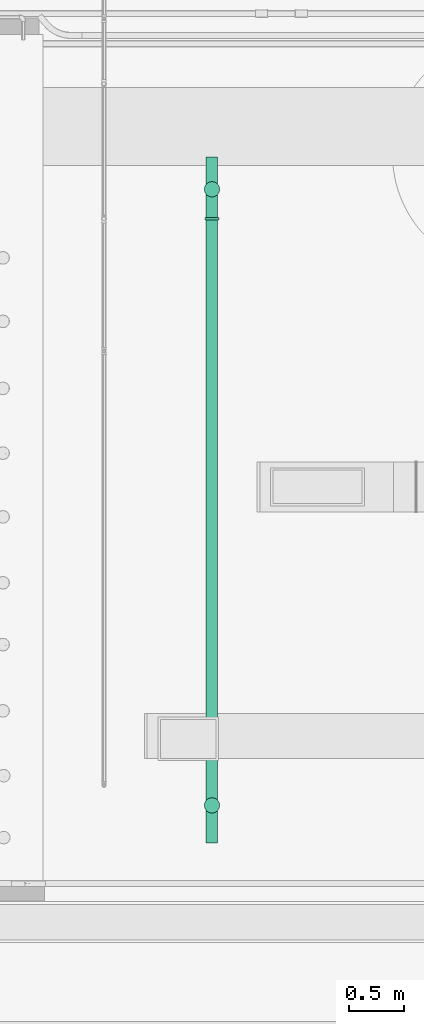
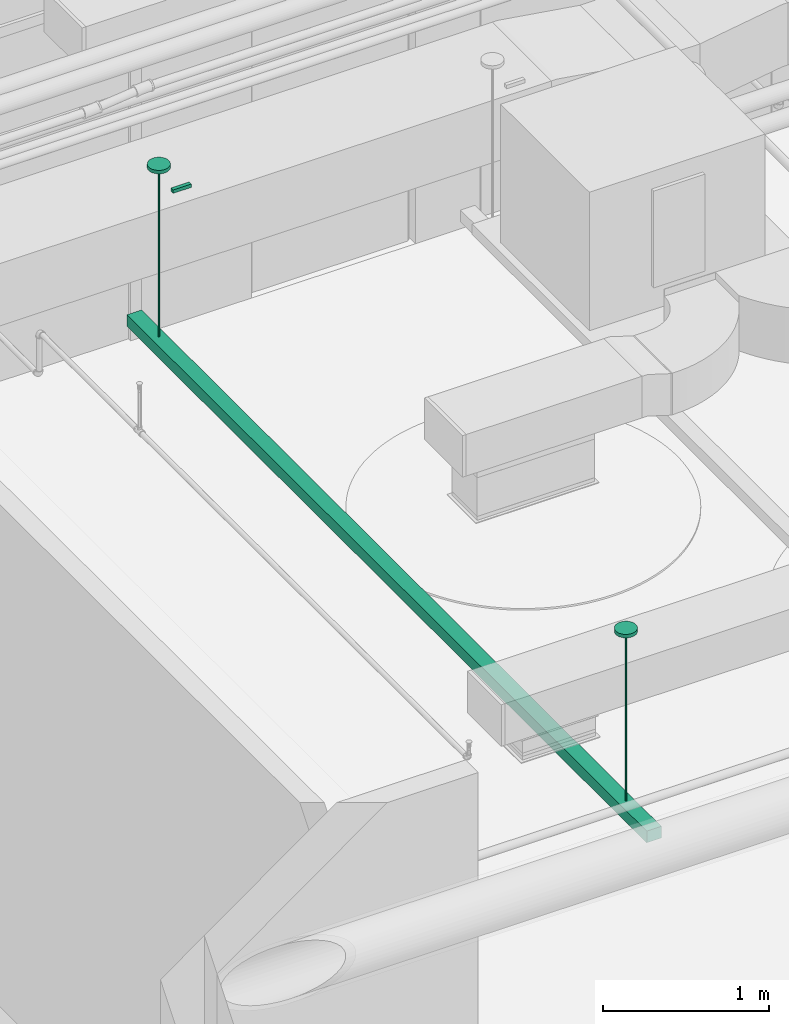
# One storey, part 24 of 108: 1 light fixture.
"""IFC4 building model written with IfcOpenShell, lengths in feet."""

from ifc_helpers import new_model, entity, si_unit, converted_unit, derived_unit, direction, frame, origin, place, context, subcontext, project, spatial, source, transform, mapped, material, type_object, type_shapes, element, save


model = new_model("IFC4")

# Units and contexts
model_context = context("Model", 3, precision=0.0001, world=origin(), true_north=direction((6.12303176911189e-17, 1.0)))
body_context = subcontext(model_context, "Body", "Model", "MODEL_VIEW")
ifc_project = project(units=[converted_unit("LENGTHUNIT", "FOOT", entity("IfcRatioMeasure", 0.3048), si_unit("LENGTHUNIT", "METRE"), dimensions=[1, 0, 0, 0, 0, 0, 0]), converted_unit("AREAUNIT", "SQUARE FOOT", entity("IfcRatioMeasure", 0.09290304), si_unit("AREAUNIT", "SQUARE_METRE"), dimensions=[2, 0, 0, 0, 0, 0, 0]), converted_unit("VOLUMEUNIT", "CUBIC FOOT", entity("IfcRatioMeasure", 0.028316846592), si_unit("VOLUMEUNIT", "CUBIC_METRE"), dimensions=[3, 0, 0, 0, 0, 0, 0]), converted_unit("PLANEANGLEUNIT", "DEGREE", entity("IfcRatioMeasure", 0.0174532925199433), si_unit("PLANEANGLEUNIT", "RADIAN"), dimensions=[0, 0, 0, 0, 0, 0, 0]), si_unit("MASSUNIT", "GRAM", prefix="KILO"), derived_unit("MASSDENSITYUNIT", [(si_unit("MASSUNIT", "GRAM", prefix="KILO"), 1), (si_unit("LENGTHUNIT", "METRE"), -3)]), si_unit("TIMEUNIT", "SECOND"), si_unit("FREQUENCYUNIT", "HERTZ"), si_unit("THERMODYNAMICTEMPERATUREUNIT", "DEGREE_CELSIUS"), derived_unit("THERMALTRANSMITTANCEUNIT", [(si_unit("MASSUNIT", "GRAM", prefix="KILO"), 1), (si_unit("THERMODYNAMICTEMPERATUREUNIT", "KELVIN"), -1), (si_unit("TIMEUNIT", "SECOND"), -3)]), derived_unit("VOLUMETRICFLOWRATEUNIT", [(si_unit("LENGTHUNIT", "METRE"), 3), (si_unit("TIMEUNIT", "SECOND"), -1)]), si_unit("ELECTRICCURRENTUNIT", "AMPERE"), si_unit("ELECTRICVOLTAGEUNIT", "VOLT"), si_unit("POWERUNIT", "WATT"), si_unit("FORCEUNIT", "NEWTON"), si_unit("ILLUMINANCEUNIT", "LUX"), si_unit("LUMINOUSFLUXUNIT", "LUMEN"), si_unit("LUMINOUSINTENSITYUNIT", "CANDELA"), derived_unit("USERDEFINED", [(si_unit("MASSUNIT", "GRAM", prefix="KILO"), -1), (si_unit("LENGTHUNIT", "METRE"), -2), (si_unit("TIMEUNIT", "SECOND"), 3), (si_unit("LUMINOUSFLUXUNIT", "LUMEN"), 1)]), derived_unit("LINEARVELOCITYUNIT", [(si_unit("LENGTHUNIT", "METRE"), 1), (si_unit("TIMEUNIT", "SECOND"), -1)]), si_unit("PRESSUREUNIT", "PASCAL"), derived_unit("USERDEFINED", [(si_unit("LENGTHUNIT", "METRE"), -2), (si_unit("MASSUNIT", "GRAM", prefix="KILO"), 1), (si_unit("TIMEUNIT", "SECOND"), -2)])], contexts=[model_context])

# Site, building, storey
site_placement = place(None, origin())
site = spatial("IfcSite", under=ifc_project, at=site_placement, Name="Default", CompositionType="ELEMENT")
building_placement = place(site_placement, origin())
building = spatial("IfcBuilding", under=site, at=building_placement, CompositionType="ELEMENT")
storey_placement = place(building_placement, frame((0.0, 0.0, 168.0)))
storey = spatial("IfcBuildingStorey", under=building, at=storey_placement, Name="Level 15", CompositionType="ELEMENT", Elevation=168.0)

# Light fixture
ifc_material = material(Name="Lighting Proxy", Category="System")
light_fixture_type = type_object("IfcLightFixtureType", Name="20' 8\"", PredefinedType="NOTDEFINED", material=ifc_material)
cartesian_point_1 = entity("IfcCartesianPoint", [0.891666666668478, 0.23440049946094, 4.43794169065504])
vertex_point_1 = entity("IfcVertexPoint", cartesian_point_1)
cartesian_point_2 = entity("IfcCartesianPoint", [1.35000000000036, 0.23440049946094, 4.43794169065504])
vertex_point_2 = entity("IfcVertexPoint", cartesian_point_2)
cartesian_point_3 = entity("IfcCartesianPoint", [1.12083333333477, 0.23440049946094, 4.43794169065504])
ifc_direction_1 = entity("IfcDirection", [0.0, 0.0, -1.0])
ifc_direction_2 = entity("IfcDirection", [1.0, 0.0, 0.0])
edge_curve_1 = entity("IfcEdgeCurve", vertex_point_1, vertex_point_2, entity("IfcTrimmedCurve", entity("IfcCircle", entity("IfcAxis2Placement3D", cartesian_point_3, ifc_direction_1, ifc_direction_2), 0.22916666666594), [cartesian_point_1], [cartesian_point_2], True, "CARTESIAN"), True)
cartesian_point_4 = entity("IfcCartesianPoint", [1.35000000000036, 0.234400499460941, 4.35387752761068])
vertex_point_3 = entity("IfcVertexPoint", cartesian_point_4)
edge_curve_2 = entity("IfcEdgeCurve", vertex_point_2, vertex_point_3, entity("IfcTrimmedCurve", entity("IfcLine", cartesian_point_2, entity("IfcVector", ifc_direction_1, 1.0)), [cartesian_point_2], [cartesian_point_4], True, "CARTESIAN"), True)
cartesian_point_5 = entity("IfcCartesianPoint", [0.891666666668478, 0.234400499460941, 4.35387752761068])
vertex_point_4 = entity("IfcVertexPoint", cartesian_point_5)
cartesian_point_6 = entity("IfcCartesianPoint", [1.12083333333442, 0.234400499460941, 4.35387752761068])
ifc_direction_3 = entity("IfcDirection", [0.0, 0.0, 1.0])
edge_curve_3 = entity("IfcEdgeCurve", vertex_point_3, vertex_point_4, entity("IfcTrimmedCurve", entity("IfcCircle", entity("IfcAxis2Placement3D", cartesian_point_6, ifc_direction_3, ifc_direction_2), 0.22916666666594), [cartesian_point_4], [cartesian_point_5], True, "CARTESIAN"), True)
edge_curve_4 = entity("IfcEdgeCurve", vertex_point_4, vertex_point_1, entity("IfcTrimmedCurve", entity("IfcLine", cartesian_point_5, entity("IfcVector", ifc_direction_3, 1.0)), [cartesian_point_5], [cartesian_point_1], True, "CARTESIAN"), True)
cartesian_point_7 = entity("IfcCartesianPoint", [1.12083333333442, 0.234400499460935, 4.75044169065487])
edge_curve_5 = entity("IfcEdgeCurve", vertex_point_2, vertex_point_1, entity("IfcTrimmedCurve", entity("IfcCircle", entity("IfcAxis2Placement3D", cartesian_point_3, ifc_direction_1, ifc_direction_2), 0.22916666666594), [cartesian_point_2], [cartesian_point_1], True, "CARTESIAN"), True)
edge_curve_6 = entity("IfcEdgeCurve", vertex_point_4, vertex_point_3, entity("IfcTrimmedCurve", entity("IfcCircle", entity("IfcAxis2Placement3D", cartesian_point_6, ifc_direction_3, ifc_direction_2), 0.22916666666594), [cartesian_point_5], [cartesian_point_4], True, "CARTESIAN"), True)
cartesian_point_8 = entity("IfcCartesianPoint", [1.14166666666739, 0.234400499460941, 4.35387752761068])
vertex_point_5 = entity("IfcVertexPoint", cartesian_point_8)
ifc_direction_4 = entity("IfcDirection", [-1.0, 0.0, 0.0])
edge_curve_7 = entity("IfcEdgeCurve", vertex_point_3, vertex_point_5, entity("IfcTrimmedCurve", entity("IfcLine", cartesian_point_4, entity("IfcVector", ifc_direction_4, 1.0)), [cartesian_point_4], [cartesian_point_8], True, "CARTESIAN"), True)
cartesian_point_9 = entity("IfcCartesianPoint", [1.10000000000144, 0.234400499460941, 4.35387752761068])
vertex_point_6 = entity("IfcVertexPoint", cartesian_point_9)
edge_curve_8 = entity("IfcEdgeCurve", vertex_point_5, vertex_point_6, entity("IfcTrimmedCurve", entity("IfcCircle", entity("IfcAxis2Placement3D", cartesian_point_6, ifc_direction_3, ifc_direction_2), 0.0208333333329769), [cartesian_point_8], [cartesian_point_9], True, "CARTESIAN"), True)
edge_curve_9 = entity("IfcEdgeCurve", vertex_point_6, vertex_point_4, entity("IfcTrimmedCurve", entity("IfcLine", cartesian_point_9, entity("IfcVector", ifc_direction_4, 1.0)), [cartesian_point_9], [cartesian_point_5], True, "CARTESIAN"), True)
edge_curve_10 = entity("IfcEdgeCurve", vertex_point_6, vertex_point_5, entity("IfcTrimmedCurve", entity("IfcCircle", entity("IfcAxis2Placement3D", cartesian_point_6, ifc_direction_3, ifc_direction_2), 0.0208333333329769), [cartesian_point_9], [cartesian_point_8], True, "CARTESIAN"), True)
cartesian_point_10 = entity("IfcCartesianPoint", [1.14166666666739, 0.234400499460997, 0.281250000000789])
vertex_point_7 = entity("IfcVertexPoint", cartesian_point_10)
edge_curve_11 = entity("IfcEdgeCurve", vertex_point_5, vertex_point_7, entity("IfcTrimmedCurve", entity("IfcLine", cartesian_point_8, entity("IfcVector", ifc_direction_1, 1.0)), [cartesian_point_8], [cartesian_point_10], True, "CARTESIAN"), True)
cartesian_point_11 = entity("IfcCartesianPoint", [1.10000000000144, 0.234400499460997, 0.281250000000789])
vertex_point_8 = entity("IfcVertexPoint", cartesian_point_11)
cartesian_point_12 = entity("IfcCartesianPoint", [1.12083333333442, 0.234400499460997, 0.281250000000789])
edge_curve_12 = entity("IfcEdgeCurve", vertex_point_7, vertex_point_8, entity("IfcTrimmedCurve", entity("IfcCircle", entity("IfcAxis2Placement3D", cartesian_point_12, ifc_direction_3, ifc_direction_2), 0.0208333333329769), [cartesian_point_10], [cartesian_point_11], True, "CARTESIAN"), True)
edge_curve_13 = entity("IfcEdgeCurve", vertex_point_8, vertex_point_6, entity("IfcTrimmedCurve", entity("IfcLine", cartesian_point_11, entity("IfcVector", ifc_direction_3, 1.0)), [cartesian_point_11], [cartesian_point_9], True, "CARTESIAN"), True)
edge_curve_14 = entity("IfcEdgeCurve", vertex_point_8, vertex_point_7, entity("IfcTrimmedCurve", entity("IfcCircle", entity("IfcAxis2Placement3D", cartesian_point_12, ifc_direction_3, ifc_direction_2), 0.0208333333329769), [cartesian_point_11], [cartesian_point_10], True, "CARTESIAN"), True)
vertex_point_9 = entity("IfcVertexPoint", cartesian_point_12)
edge_curve_15 = entity("IfcEdgeCurve", vertex_point_7, vertex_point_9, entity("IfcTrimmedCurve", entity("IfcLine", cartesian_point_10, entity("IfcVector", ifc_direction_4, 1.0)), [cartesian_point_10], [cartesian_point_12], True, "CARTESIAN"), True)
edge_curve_16 = entity("IfcEdgeCurve", vertex_point_9, vertex_point_8, entity("IfcTrimmedCurve", entity("IfcLine", cartesian_point_12, entity("IfcVector", ifc_direction_4, 1.0)), [cartesian_point_12], [cartesian_point_11], True, "CARTESIAN"), True)
vertex_point_10 = entity("IfcVertexPoint", cartesian_point_3)
edge_curve_17 = entity("IfcEdgeCurve", vertex_point_10, vertex_point_2, entity("IfcTrimmedCurve", entity("IfcLine", cartesian_point_3, entity("IfcVector", ifc_direction_2, 1.0)), [cartesian_point_3], [cartesian_point_2], True, "CARTESIAN"), True)
edge_curve_18 = entity("IfcEdgeCurve", vertex_point_1, vertex_point_10, entity("IfcTrimmedCurve", entity("IfcLine", cartesian_point_1, entity("IfcVector", ifc_direction_2, 1.0)), [cartesian_point_1], [cartesian_point_3], True, "CARTESIAN"), True)
cartesian_point_13 = entity("IfcCartesianPoint", [19.7749999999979, 0.23440049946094, 4.43794169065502])
vertex_point_11 = entity("IfcVertexPoint", cartesian_point_13)
cartesian_point_14 = entity("IfcCartesianPoint", [19.3166666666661, 0.23440049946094, 4.43794169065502])
vertex_point_12 = entity("IfcVertexPoint", cartesian_point_14)
cartesian_point_15 = entity("IfcCartesianPoint", [19.5458333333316, 0.23440049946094, 4.43794169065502])
ifc_direction_5 = entity("IfcDirection", [0.0, 0.0, 1.0])
ifc_direction_6 = entity("IfcDirection", [-1.0, 0.0, 0.0])
edge_curve_19 = entity("IfcEdgeCurve", vertex_point_11, vertex_point_12, entity("IfcTrimmedCurve", entity("IfcCircle", entity("IfcAxis2Placement3D", cartesian_point_15, ifc_direction_5, ifc_direction_6), 0.229166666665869), [cartesian_point_13], [cartesian_point_14], True, "CARTESIAN"), True)
vertex_point_13 = entity("IfcVertexPoint", cartesian_point_15)
ifc_direction_7 = entity("IfcDirection", [1.0, 0.0, 0.0])
edge_curve_20 = entity("IfcEdgeCurve", vertex_point_12, vertex_point_13, entity("IfcTrimmedCurve", entity("IfcLine", cartesian_point_14, entity("IfcVector", ifc_direction_7, 1.0)), [cartesian_point_14], [cartesian_point_15], True, "CARTESIAN"), True)
edge_curve_21 = entity("IfcEdgeCurve", vertex_point_13, vertex_point_11, entity("IfcTrimmedCurve", entity("IfcLine", cartesian_point_15, entity("IfcVector", ifc_direction_7, 1.0)), [cartesian_point_15], [cartesian_point_13], True, "CARTESIAN"), True)
edge_curve_22 = entity("IfcEdgeCurve", vertex_point_12, vertex_point_11, entity("IfcTrimmedCurve", entity("IfcCircle", entity("IfcAxis2Placement3D", cartesian_point_15, ifc_direction_5, ifc_direction_6), 0.229166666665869), [cartesian_point_14], [cartesian_point_13], True, "CARTESIAN"), True)
cartesian_point_16 = entity("IfcCartesianPoint", [19.7749999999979, 0.234400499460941, 4.35387752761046])
vertex_point_14 = entity("IfcVertexPoint", cartesian_point_16)
cartesian_point_17 = entity("IfcCartesianPoint", [19.3166666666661, 0.234400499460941, 4.35387752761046])
vertex_point_15 = entity("IfcVertexPoint", cartesian_point_17)
cartesian_point_18 = entity("IfcCartesianPoint", [19.545833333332, 0.234400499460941, 4.35387752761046])
edge_curve_23 = entity("IfcEdgeCurve", vertex_point_14, vertex_point_15, entity("IfcTrimmedCurve", entity("IfcCircle", entity("IfcAxis2Placement3D", cartesian_point_18, ifc_direction_5, ifc_direction_6), 0.229166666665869), [cartesian_point_16], [cartesian_point_17], True, "CARTESIAN"), True)
edge_curve_24 = entity("IfcEdgeCurve", vertex_point_15, vertex_point_12, entity("IfcTrimmedCurve", entity("IfcLine", cartesian_point_17, entity("IfcVector", ifc_direction_5, 1.0)), [cartesian_point_17], [cartesian_point_14], True, "CARTESIAN"), True)
ifc_direction_8 = entity("IfcDirection", [0.0, 0.0, -1.0])
edge_curve_25 = entity("IfcEdgeCurve", vertex_point_11, vertex_point_14, entity("IfcTrimmedCurve", entity("IfcLine", cartesian_point_13, entity("IfcVector", ifc_direction_8, 1.0)), [cartesian_point_13], [cartesian_point_16], True, "CARTESIAN"), True)
cartesian_point_19 = entity("IfcCartesianPoint", [19.545833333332, 0.234400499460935, 4.75044169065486])
edge_curve_26 = entity("IfcEdgeCurve", vertex_point_15, vertex_point_14, entity("IfcTrimmedCurve", entity("IfcCircle", entity("IfcAxis2Placement3D", cartesian_point_18, ifc_direction_5, ifc_direction_6), 0.229166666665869), [cartesian_point_17], [cartesian_point_16], True, "CARTESIAN"), True)
cartesian_point_20 = entity("IfcCartesianPoint", [19.5666666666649, 0.234400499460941, 4.35387752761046])
vertex_point_16 = entity("IfcVertexPoint", cartesian_point_20)
cartesian_point_21 = entity("IfcCartesianPoint", [19.5249999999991, 0.234400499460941, 4.35387752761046])
vertex_point_17 = entity("IfcVertexPoint", cartesian_point_21)
edge_curve_27 = entity("IfcEdgeCurve", vertex_point_16, vertex_point_17, entity("IfcTrimmedCurve", entity("IfcCircle", entity("IfcAxis2Placement3D", cartesian_point_18, ifc_direction_5, ifc_direction_6), 0.0208333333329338), [cartesian_point_20], [cartesian_point_21], True, "CARTESIAN"), True)
edge_curve_28 = entity("IfcEdgeCurve", vertex_point_17, vertex_point_15, entity("IfcTrimmedCurve", entity("IfcLine", cartesian_point_21, entity("IfcVector", ifc_direction_6, 1.0)), [cartesian_point_21], [cartesian_point_17], True, "CARTESIAN"), True)
edge_curve_29 = entity("IfcEdgeCurve", vertex_point_14, vertex_point_16, entity("IfcTrimmedCurve", entity("IfcLine", cartesian_point_16, entity("IfcVector", ifc_direction_6, 1.0)), [cartesian_point_16], [cartesian_point_20], True, "CARTESIAN"), True)
edge_curve_30 = entity("IfcEdgeCurve", vertex_point_17, vertex_point_16, entity("IfcTrimmedCurve", entity("IfcCircle", entity("IfcAxis2Placement3D", cartesian_point_18, ifc_direction_5, ifc_direction_6), 0.0208333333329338), [cartesian_point_21], [cartesian_point_20], True, "CARTESIAN"), True)
cartesian_point_22 = entity("IfcCartesianPoint", [19.5666666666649, 0.234400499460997, 0.281250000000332])
vertex_point_18 = entity("IfcVertexPoint", cartesian_point_22)
cartesian_point_23 = entity("IfcCartesianPoint", [19.5249999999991, 0.234400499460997, 0.281250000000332])
vertex_point_19 = entity("IfcVertexPoint", cartesian_point_23)
cartesian_point_24 = entity("IfcCartesianPoint", [19.5458333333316, 0.234400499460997, 0.281250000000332])
edge_curve_31 = entity("IfcEdgeCurve", vertex_point_18, vertex_point_19, entity("IfcTrimmedCurve", entity("IfcCircle", entity("IfcAxis2Placement3D", cartesian_point_24, ifc_direction_5, ifc_direction_6), 0.0208333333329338), [cartesian_point_22], [cartesian_point_23], True, "CARTESIAN"), True)
edge_curve_32 = entity("IfcEdgeCurve", vertex_point_19, vertex_point_17, entity("IfcTrimmedCurve", entity("IfcLine", cartesian_point_23, entity("IfcVector", ifc_direction_5, 1.0)), [cartesian_point_23], [cartesian_point_21], True, "CARTESIAN"), True)
edge_curve_33 = entity("IfcEdgeCurve", vertex_point_16, vertex_point_18, entity("IfcTrimmedCurve", entity("IfcLine", cartesian_point_20, entity("IfcVector", ifc_direction_8, 1.0)), [cartesian_point_20], [cartesian_point_22], True, "CARTESIAN"), True)
edge_curve_34 = entity("IfcEdgeCurve", vertex_point_19, vertex_point_18, entity("IfcTrimmedCurve", entity("IfcCircle", entity("IfcAxis2Placement3D", cartesian_point_24, ifc_direction_5, ifc_direction_6), 0.0208333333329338), [cartesian_point_23], [cartesian_point_22], True, "CARTESIAN"), True)
vertex_point_20 = entity("IfcVertexPoint", cartesian_point_24)
edge_curve_35 = entity("IfcEdgeCurve", vertex_point_20, vertex_point_19, entity("IfcTrimmedCurve", entity("IfcLine", cartesian_point_24, entity("IfcVector", ifc_direction_6, 1.0)), [cartesian_point_24], [cartesian_point_23], True, "CARTESIAN"), True)
edge_curve_36 = entity("IfcEdgeCurve", vertex_point_18, vertex_point_20, entity("IfcTrimmedCurve", entity("IfcLine", cartesian_point_22, entity("IfcVector", ifc_direction_6, 1.0)), [cartesian_point_22], [cartesian_point_24], True, "CARTESIAN"), True)
cartesian_point_25 = entity("IfcCartesianPoint", [18.7083333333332, 0.0260671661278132, 4.43794169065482])
vertex_point_21 = entity("IfcVertexPoint", cartesian_point_25)
cartesian_point_26 = entity("IfcCartesianPoint", [18.7083333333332, 0.44273383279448, 4.43794169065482])
vertex_point_22 = entity("IfcVertexPoint", cartesian_point_26)
ifc_direction_9 = entity("IfcDirection", [0.0, 1.0, 0.0])
edge_curve_37 = entity("IfcEdgeCurve", vertex_point_21, vertex_point_22, entity("IfcTrimmedCurve", entity("IfcLine", cartesian_point_25, entity("IfcVector", ifc_direction_9, 1.0)), [cartesian_point_25], [cartesian_point_26], True, "CARTESIAN"), True)
cartesian_point_27 = entity("IfcCartesianPoint", [18.6249999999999, 0.44273383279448, 4.43794169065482])
vertex_point_23 = entity("IfcVertexPoint", cartesian_point_27)
ifc_direction_10 = entity("IfcDirection", [-1.0, 0.0, 0.0])
edge_curve_38 = entity("IfcEdgeCurve", vertex_point_22, vertex_point_23, entity("IfcTrimmedCurve", entity("IfcLine", cartesian_point_26, entity("IfcVector", ifc_direction_10, 1.0)), [cartesian_point_26], [cartesian_point_27], True, "CARTESIAN"), True)
cartesian_point_28 = entity("IfcCartesianPoint", [18.6249999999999, 0.0260671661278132, 4.43794169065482])
vertex_point_24 = entity("IfcVertexPoint", cartesian_point_28)
ifc_direction_11 = entity("IfcDirection", [0.0, -1.0, 0.0])
edge_curve_39 = entity("IfcEdgeCurve", vertex_point_23, vertex_point_24, entity("IfcTrimmedCurve", entity("IfcLine", cartesian_point_27, entity("IfcVector", ifc_direction_11, 1.0)), [cartesian_point_27], [cartesian_point_28], True, "CARTESIAN"), True)
ifc_direction_12 = entity("IfcDirection", [1.0, 0.0, 0.0])
edge_curve_40 = entity("IfcEdgeCurve", vertex_point_24, vertex_point_21, entity("IfcTrimmedCurve", entity("IfcLine", cartesian_point_28, entity("IfcVector", ifc_direction_12, 1.0)), [cartesian_point_28], [cartesian_point_25], True, "CARTESIAN"), True)
ifc_direction_13 = entity("IfcDirection", [0.0, 0.0, 1.0])
cartesian_point_29 = entity("IfcCartesianPoint", [18.7083333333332, 0.0260671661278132, 4.35460835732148])
vertex_point_25 = entity("IfcVertexPoint", cartesian_point_29)
cartesian_point_30 = entity("IfcCartesianPoint", [18.6249999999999, 0.0260671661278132, 4.35460835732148])
vertex_point_26 = entity("IfcVertexPoint", cartesian_point_30)
edge_curve_41 = entity("IfcEdgeCurve", vertex_point_25, vertex_point_26, entity("IfcTrimmedCurve", entity("IfcLine", cartesian_point_29, entity("IfcVector", ifc_direction_10, 1.0)), [cartesian_point_29], [cartesian_point_30], True, "CARTESIAN"), True)
cartesian_point_31 = entity("IfcCartesianPoint", [18.6249999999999, 0.44273383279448, 4.35460835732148])
vertex_point_27 = entity("IfcVertexPoint", cartesian_point_31)
edge_curve_42 = entity("IfcEdgeCurve", vertex_point_26, vertex_point_27, entity("IfcTrimmedCurve", entity("IfcLine", cartesian_point_30, entity("IfcVector", ifc_direction_9, 1.0)), [cartesian_point_30], [cartesian_point_31], True, "CARTESIAN"), True)
cartesian_point_32 = entity("IfcCartesianPoint", [18.7083333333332, 0.44273383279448, 4.35460835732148])
vertex_point_28 = entity("IfcVertexPoint", cartesian_point_32)
edge_curve_43 = entity("IfcEdgeCurve", vertex_point_27, vertex_point_28, entity("IfcTrimmedCurve", entity("IfcLine", cartesian_point_31, entity("IfcVector", ifc_direction_12, 1.0)), [cartesian_point_31], [cartesian_point_32], True, "CARTESIAN"), True)
edge_curve_44 = entity("IfcEdgeCurve", vertex_point_28, vertex_point_25, entity("IfcTrimmedCurve", entity("IfcLine", cartesian_point_32, entity("IfcVector", ifc_direction_11, 1.0)), [cartesian_point_32], [cartesian_point_29], True, "CARTESIAN"), True)
ifc_direction_14 = entity("IfcDirection", [0.0, 0.0, -1.0])
edge_curve_45 = entity("IfcEdgeCurve", vertex_point_21, vertex_point_25, entity("IfcTrimmedCurve", entity("IfcLine", cartesian_point_25, entity("IfcVector", ifc_direction_14, 1.0)), [cartesian_point_25], [cartesian_point_29], True, "CARTESIAN"), True)
edge_curve_46 = entity("IfcEdgeCurve", vertex_point_28, vertex_point_22, entity("IfcTrimmedCurve", entity("IfcLine", cartesian_point_26, entity("IfcVector", ifc_direction_13, 1.0)), [cartesian_point_32], [cartesian_point_26], True, "CARTESIAN"), True)
edge_curve_47 = entity("IfcEdgeCurve", vertex_point_27, vertex_point_23, entity("IfcTrimmedCurve", entity("IfcLine", cartesian_point_27, entity("IfcVector", ifc_direction_13, 1.0)), [cartesian_point_31], [cartesian_point_27], True, "CARTESIAN"), True)
edge_curve_48 = entity("IfcEdgeCurve", vertex_point_26, vertex_point_24, entity("IfcTrimmedCurve", entity("IfcLine", cartesian_point_28, entity("IfcVector", ifc_direction_13, 1.0)), [cartesian_point_30], [cartesian_point_28], True, "CARTESIAN"), True)
cartesian_point_33 = entity("IfcCartesianPoint", [20.507260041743, 0.40656789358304, 0.28125000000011])
vertex_point_29 = entity("IfcVertexPoint", cartesian_point_33)
cartesian_point_34 = entity("IfcCartesianPoint", [0.0, 0.40656789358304, 0.281250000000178])
vertex_point_30 = entity("IfcVertexPoint", cartesian_point_34)
ifc_direction_15 = entity("IfcDirection", [-1.0, 0.0, 0.0])
edge_curve_49 = entity("IfcEdgeCurve", vertex_point_29, vertex_point_30, entity("IfcTrimmedCurve", entity("IfcLine", cartesian_point_33, entity("IfcVector", ifc_direction_15, 1.0)), [cartesian_point_33], [cartesian_point_34], True, "CARTESIAN"), True)
cartesian_point_35 = entity("IfcCartesianPoint", [0.0, 0.0732345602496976, 0.281250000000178])
vertex_point_31 = entity("IfcVertexPoint", cartesian_point_35)
ifc_direction_16 = entity("IfcDirection", [0.0, -1.0, 0.0])
edge_curve_50 = entity("IfcEdgeCurve", vertex_point_30, vertex_point_31, entity("IfcTrimmedCurve", entity("IfcLine", cartesian_point_34, entity("IfcVector", ifc_direction_16, 1.0)), [cartesian_point_34], [cartesian_point_35], True, "CARTESIAN"), True)
cartesian_point_36 = entity("IfcCartesianPoint", [20.507260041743, 0.0732345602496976, 0.28125000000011])
vertex_point_32 = entity("IfcVertexPoint", cartesian_point_36)
ifc_direction_17 = entity("IfcDirection", [1.0, 0.0, 0.0])
edge_curve_51 = entity("IfcEdgeCurve", vertex_point_31, vertex_point_32, entity("IfcTrimmedCurve", entity("IfcLine", cartesian_point_35, entity("IfcVector", ifc_direction_17, 1.0)), [cartesian_point_35], [cartesian_point_36], True, "CARTESIAN"), True)
ifc_direction_18 = entity("IfcDirection", [0.0, 1.0, 0.0])
edge_curve_52 = entity("IfcEdgeCurve", vertex_point_32, vertex_point_29, entity("IfcTrimmedCurve", entity("IfcLine", cartesian_point_36, entity("IfcVector", ifc_direction_18, 1.0)), [cartesian_point_36], [cartesian_point_33], True, "CARTESIAN"), True)
ifc_direction_19 = entity("IfcDirection", [0.0, 0.0, 1.0])
cartesian_point_37 = entity("IfcCartesianPoint", [20.507260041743, 0.40656789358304, 0.0])
vertex_point_33 = entity("IfcVertexPoint", cartesian_point_37)
cartesian_point_38 = entity("IfcCartesianPoint", [20.507260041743, 0.0732345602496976, 0.0])
vertex_point_34 = entity("IfcVertexPoint", cartesian_point_38)
edge_curve_53 = entity("IfcEdgeCurve", vertex_point_33, vertex_point_34, entity("IfcTrimmedCurve", entity("IfcLine", cartesian_point_37, entity("IfcVector", ifc_direction_16, 1.0)), [cartesian_point_37], [cartesian_point_38], True, "CARTESIAN"), True)
cartesian_point_39 = entity("IfcCartesianPoint", [0.0, 0.0732345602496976, 0.0])
vertex_point_35 = entity("IfcVertexPoint", cartesian_point_39)
edge_curve_54 = entity("IfcEdgeCurve", vertex_point_34, vertex_point_35, entity("IfcTrimmedCurve", entity("IfcLine", cartesian_point_38, entity("IfcVector", ifc_direction_15, 1.0)), [cartesian_point_38], [cartesian_point_39], True, "CARTESIAN"), True)
cartesian_point_40 = entity("IfcCartesianPoint", [0.0, 0.40656789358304, 0.0])
vertex_point_36 = entity("IfcVertexPoint", cartesian_point_40)
edge_curve_55 = entity("IfcEdgeCurve", vertex_point_35, vertex_point_36, entity("IfcTrimmedCurve", entity("IfcLine", cartesian_point_39, entity("IfcVector", ifc_direction_18, 1.0)), [cartesian_point_39], [cartesian_point_40], True, "CARTESIAN"), True)
edge_curve_56 = entity("IfcEdgeCurve", vertex_point_36, vertex_point_33, entity("IfcTrimmedCurve", entity("IfcLine", cartesian_point_40, entity("IfcVector", ifc_direction_17, 1.0)), [cartesian_point_40], [cartesian_point_37], True, "CARTESIAN"), True)
ifc_direction_20 = entity("IfcDirection", [0.0, 0.0, -1.0])
edge_curve_57 = entity("IfcEdgeCurve", vertex_point_29, vertex_point_33, entity("IfcTrimmedCurve", entity("IfcLine", cartesian_point_33, entity("IfcVector", ifc_direction_20, 1.0)), [cartesian_point_33], [cartesian_point_37], True, "CARTESIAN"), True)
edge_curve_58 = entity("IfcEdgeCurve", vertex_point_36, vertex_point_30, entity("IfcTrimmedCurve", entity("IfcLine", cartesian_point_34, entity("IfcVector", ifc_direction_19, 1.0)), [cartesian_point_40], [cartesian_point_34], True, "CARTESIAN"), True)
edge_curve_59 = entity("IfcEdgeCurve", vertex_point_31, vertex_point_35, entity("IfcTrimmedCurve", entity("IfcLine", cartesian_point_35, entity("IfcVector", ifc_direction_20, 1.0)), [cartesian_point_35], [cartesian_point_39], True, "CARTESIAN"), True)
edge_curve_60 = entity("IfcEdgeCurve", vertex_point_34, vertex_point_32, entity("IfcTrimmedCurve", entity("IfcLine", cartesian_point_36, entity("IfcVector", ifc_direction_19, 1.0)), [cartesian_point_38], [cartesian_point_36], True, "CARTESIAN"), True)
shared_shape = source(origin(), body_context, "Body", "AdvancedBrep", [
    entity("IfcAdvancedBrep", entity("IfcClosedShell", [entity("IfcAdvancedFace", [entity("IfcFaceOuterBound", entity("IfcEdgeLoop", [entity("IfcOrientedEdge", None, None, edge_curve_1, True), entity("IfcOrientedEdge", None, None, edge_curve_2, True), entity("IfcOrientedEdge", None, None, edge_curve_3, True), entity("IfcOrientedEdge", None, None, edge_curve_4, True)]), True)], entity("IfcCylindricalSurface", entity("IfcAxis2Placement3D", cartesian_point_7, ifc_direction_3, ifc_direction_2), 0.22916666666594), True), entity("IfcAdvancedFace", [entity("IfcFaceOuterBound", entity("IfcEdgeLoop", [entity("IfcOrientedEdge", None, None, edge_curve_5, True), entity("IfcOrientedEdge", None, None, edge_curve_4, False), entity("IfcOrientedEdge", None, None, edge_curve_6, True), entity("IfcOrientedEdge", None, None, edge_curve_2, False)]), True)], entity("IfcCylindricalSurface", entity("IfcAxis2Placement3D", cartesian_point_7, ifc_direction_3, ifc_direction_2), 0.22916666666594), True), entity("IfcAdvancedFace", [entity("IfcFaceOuterBound", entity("IfcEdgeLoop", [entity("IfcOrientedEdge", None, None, edge_curve_3, False), entity("IfcOrientedEdge", None, None, edge_curve_7, True), entity("IfcOrientedEdge", None, None, edge_curve_8, True), entity("IfcOrientedEdge", None, None, edge_curve_9, True)]), True)], entity("IfcPlane", entity("IfcAxis2Placement3D", cartesian_point_6, ifc_direction_1, ifc_direction_2)), True), entity("IfcAdvancedFace", [entity("IfcFaceOuterBound", entity("IfcEdgeLoop", [entity("IfcOrientedEdge", None, None, edge_curve_6, False), entity("IfcOrientedEdge", None, None, edge_curve_9, False), entity("IfcOrientedEdge", None, None, edge_curve_10, True), entity("IfcOrientedEdge", None, None, edge_curve_7, False)]), True)], entity("IfcPlane", entity("IfcAxis2Placement3D", cartesian_point_6, ifc_direction_1, ifc_direction_2)), True), entity("IfcAdvancedFace", [entity("IfcFaceOuterBound", entity("IfcEdgeLoop", [entity("IfcOrientedEdge", None, None, edge_curve_8, False), entity("IfcOrientedEdge", None, None, edge_curve_11, True), entity("IfcOrientedEdge", None, None, edge_curve_12, True), entity("IfcOrientedEdge", None, None, edge_curve_13, True)]), True)], entity("IfcCylindricalSurface", entity("IfcAxis2Placement3D", cartesian_point_7, ifc_direction_3, ifc_direction_2), 0.0208333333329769), True), entity("IfcAdvancedFace", [entity("IfcFaceOuterBound", entity("IfcEdgeLoop", [entity("IfcOrientedEdge", None, None, edge_curve_10, False), entity("IfcOrientedEdge", None, None, edge_curve_13, False), entity("IfcOrientedEdge", None, None, edge_curve_14, True), entity("IfcOrientedEdge", None, None, edge_curve_11, False)]), True)], entity("IfcCylindricalSurface", entity("IfcAxis2Placement3D", cartesian_point_7, ifc_direction_3, ifc_direction_2), 0.0208333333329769), True), entity("IfcAdvancedFace", [entity("IfcFaceOuterBound", entity("IfcEdgeLoop", [entity("IfcOrientedEdge", None, None, edge_curve_12, False), entity("IfcOrientedEdge", None, None, edge_curve_15, True), entity("IfcOrientedEdge", None, None, edge_curve_16, True)]), True)], entity("IfcPlane", entity("IfcAxis2Placement3D", cartesian_point_12, ifc_direction_1, ifc_direction_2)), True), entity("IfcAdvancedFace", [entity("IfcFaceOuterBound", entity("IfcEdgeLoop", [entity("IfcOrientedEdge", None, None, edge_curve_14, False), entity("IfcOrientedEdge", None, None, edge_curve_16, False), entity("IfcOrientedEdge", None, None, edge_curve_15, False)]), True)], entity("IfcPlane", entity("IfcAxis2Placement3D", cartesian_point_12, ifc_direction_1, ifc_direction_2)), True), entity("IfcAdvancedFace", [entity("IfcFaceOuterBound", entity("IfcEdgeLoop", [entity("IfcOrientedEdge", None, None, edge_curve_17, True), entity("IfcOrientedEdge", None, None, edge_curve_1, False), entity("IfcOrientedEdge", None, None, edge_curve_18, True)]), True)], entity("IfcPlane", entity("IfcAxis2Placement3D", cartesian_point_3, ifc_direction_3, ifc_direction_2)), True), entity("IfcAdvancedFace", [entity("IfcFaceOuterBound", entity("IfcEdgeLoop", [entity("IfcOrientedEdge", None, None, edge_curve_18, False), entity("IfcOrientedEdge", None, None, edge_curve_5, False), entity("IfcOrientedEdge", None, None, edge_curve_17, False)]), True)], entity("IfcPlane", entity("IfcAxis2Placement3D", cartesian_point_3, ifc_direction_3, ifc_direction_2)), True)])),
    entity("IfcAdvancedBrep", entity("IfcClosedShell", [entity("IfcAdvancedFace", [entity("IfcFaceOuterBound", entity("IfcEdgeLoop", [entity("IfcOrientedEdge", None, None, edge_curve_19, True), entity("IfcOrientedEdge", None, None, edge_curve_20, True), entity("IfcOrientedEdge", None, None, edge_curve_21, True)]), True)], entity("IfcPlane", entity("IfcAxis2Placement3D", cartesian_point_15, ifc_direction_5, ifc_direction_6)), True), entity("IfcAdvancedFace", [entity("IfcFaceOuterBound", entity("IfcEdgeLoop", [entity("IfcOrientedEdge", None, None, edge_curve_22, True), entity("IfcOrientedEdge", None, None, edge_curve_21, False), entity("IfcOrientedEdge", None, None, edge_curve_20, False)]), True)], entity("IfcPlane", entity("IfcAxis2Placement3D", cartesian_point_15, ifc_direction_5, ifc_direction_6)), True), entity("IfcAdvancedFace", [entity("IfcFaceOuterBound", entity("IfcEdgeLoop", [entity("IfcOrientedEdge", None, None, edge_curve_23, True), entity("IfcOrientedEdge", None, None, edge_curve_24, True), entity("IfcOrientedEdge", None, None, edge_curve_19, False), entity("IfcOrientedEdge", None, None, edge_curve_25, True)]), True)], entity("IfcCylindricalSurface", entity("IfcAxis2Placement3D", cartesian_point_19, ifc_direction_8, ifc_direction_6), 0.229166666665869), True), entity("IfcAdvancedFace", [entity("IfcFaceOuterBound", entity("IfcEdgeLoop", [entity("IfcOrientedEdge", None, None, edge_curve_26, True), entity("IfcOrientedEdge", None, None, edge_curve_25, False), entity("IfcOrientedEdge", None, None, edge_curve_22, False), entity("IfcOrientedEdge", None, None, edge_curve_24, False)]), True)], entity("IfcCylindricalSurface", entity("IfcAxis2Placement3D", cartesian_point_19, ifc_direction_8, ifc_direction_6), 0.229166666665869), True), entity("IfcAdvancedFace", [entity("IfcFaceOuterBound", entity("IfcEdgeLoop", [entity("IfcOrientedEdge", None, None, edge_curve_27, True), entity("IfcOrientedEdge", None, None, edge_curve_28, True), entity("IfcOrientedEdge", None, None, edge_curve_23, False), entity("IfcOrientedEdge", None, None, edge_curve_29, True)]), True)], entity("IfcPlane", entity("IfcAxis2Placement3D", cartesian_point_18, ifc_direction_8, ifc_direction_6)), True), entity("IfcAdvancedFace", [entity("IfcFaceOuterBound", entity("IfcEdgeLoop", [entity("IfcOrientedEdge", None, None, edge_curve_30, True), entity("IfcOrientedEdge", None, None, edge_curve_29, False), entity("IfcOrientedEdge", None, None, edge_curve_26, False), entity("IfcOrientedEdge", None, None, edge_curve_28, False)]), True)], entity("IfcPlane", entity("IfcAxis2Placement3D", cartesian_point_18, ifc_direction_8, ifc_direction_6)), True), entity("IfcAdvancedFace", [entity("IfcFaceOuterBound", entity("IfcEdgeLoop", [entity("IfcOrientedEdge", None, None, edge_curve_31, True), entity("IfcOrientedEdge", None, None, edge_curve_32, True), entity("IfcOrientedEdge", None, None, edge_curve_27, False), entity("IfcOrientedEdge", None, None, edge_curve_33, True)]), True)], entity("IfcCylindricalSurface", entity("IfcAxis2Placement3D", cartesian_point_19, ifc_direction_8, ifc_direction_6), 0.0208333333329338), True), entity("IfcAdvancedFace", [entity("IfcFaceOuterBound", entity("IfcEdgeLoop", [entity("IfcOrientedEdge", None, None, edge_curve_34, True), entity("IfcOrientedEdge", None, None, edge_curve_33, False), entity("IfcOrientedEdge", None, None, edge_curve_30, False), entity("IfcOrientedEdge", None, None, edge_curve_32, False)]), True)], entity("IfcCylindricalSurface", entity("IfcAxis2Placement3D", cartesian_point_19, ifc_direction_8, ifc_direction_6), 0.0208333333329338), True), entity("IfcAdvancedFace", [entity("IfcFaceOuterBound", entity("IfcEdgeLoop", [entity("IfcOrientedEdge", None, None, edge_curve_35, True), entity("IfcOrientedEdge", None, None, edge_curve_31, False), entity("IfcOrientedEdge", None, None, edge_curve_36, True)]), True)], entity("IfcPlane", entity("IfcAxis2Placement3D", cartesian_point_24, ifc_direction_8, ifc_direction_6)), True), entity("IfcAdvancedFace", [entity("IfcFaceOuterBound", entity("IfcEdgeLoop", [entity("IfcOrientedEdge", None, None, edge_curve_36, False), entity("IfcOrientedEdge", None, None, edge_curve_34, False), entity("IfcOrientedEdge", None, None, edge_curve_35, False)]), True)], entity("IfcPlane", entity("IfcAxis2Placement3D", cartesian_point_24, ifc_direction_8, ifc_direction_6)), True)])),
    entity("IfcAdvancedBrep", entity("IfcClosedShell", [entity("IfcAdvancedFace", [entity("IfcFaceOuterBound", entity("IfcEdgeLoop", [entity("IfcOrientedEdge", None, None, edge_curve_37, True), entity("IfcOrientedEdge", None, None, edge_curve_38, True), entity("IfcOrientedEdge", None, None, edge_curve_39, True), entity("IfcOrientedEdge", None, None, edge_curve_40, True)]), True)], entity("IfcPlane", entity("IfcAxis2Placement3D", cartesian_point_25, ifc_direction_13, ifc_direction_9)), True), entity("IfcAdvancedFace", [entity("IfcFaceOuterBound", entity("IfcEdgeLoop", [entity("IfcOrientedEdge", None, None, edge_curve_41, True), entity("IfcOrientedEdge", None, None, edge_curve_42, True), entity("IfcOrientedEdge", None, None, edge_curve_43, True), entity("IfcOrientedEdge", None, None, edge_curve_44, True)]), True)], entity("IfcPlane", entity("IfcAxis2Placement3D", cartesian_point_29, ifc_direction_14, ifc_direction_11)), True), entity("IfcAdvancedFace", [entity("IfcFaceOuterBound", entity("IfcEdgeLoop", [entity("IfcOrientedEdge", None, None, edge_curve_37, False), entity("IfcOrientedEdge", None, None, edge_curve_45, True), entity("IfcOrientedEdge", None, None, edge_curve_44, False), entity("IfcOrientedEdge", None, None, edge_curve_46, True)]), True)], entity("IfcPlane", entity("IfcAxis2Placement3D", cartesian_point_25, ifc_direction_12, ifc_direction_14)), True), entity("IfcAdvancedFace", [entity("IfcFaceOuterBound", entity("IfcEdgeLoop", [entity("IfcOrientedEdge", None, None, edge_curve_38, False), entity("IfcOrientedEdge", None, None, edge_curve_46, False), entity("IfcOrientedEdge", None, None, edge_curve_43, False), entity("IfcOrientedEdge", None, None, edge_curve_47, True)]), True)], entity("IfcPlane", entity("IfcAxis2Placement3D", cartesian_point_26, ifc_direction_9, ifc_direction_14)), True), entity("IfcAdvancedFace", [entity("IfcFaceOuterBound", entity("IfcEdgeLoop", [entity("IfcOrientedEdge", None, None, edge_curve_39, False), entity("IfcOrientedEdge", None, None, edge_curve_47, False), entity("IfcOrientedEdge", None, None, edge_curve_42, False), entity("IfcOrientedEdge", None, None, edge_curve_48, True)]), True)], entity("IfcPlane", entity("IfcAxis2Placement3D", cartesian_point_27, ifc_direction_10, ifc_direction_14)), True), entity("IfcAdvancedFace", [entity("IfcFaceOuterBound", entity("IfcEdgeLoop", [entity("IfcOrientedEdge", None, None, edge_curve_40, False), entity("IfcOrientedEdge", None, None, edge_curve_48, False), entity("IfcOrientedEdge", None, None, edge_curve_41, False), entity("IfcOrientedEdge", None, None, edge_curve_45, False)]), True)], entity("IfcPlane", entity("IfcAxis2Placement3D", cartesian_point_28, ifc_direction_11, ifc_direction_14)), True)])),
    entity("IfcAdvancedBrep", entity("IfcClosedShell", [entity("IfcAdvancedFace", [entity("IfcFaceOuterBound", entity("IfcEdgeLoop", [entity("IfcOrientedEdge", None, None, edge_curve_49, True), entity("IfcOrientedEdge", None, None, edge_curve_50, True), entity("IfcOrientedEdge", None, None, edge_curve_51, True), entity("IfcOrientedEdge", None, None, edge_curve_52, True)]), True)], entity("IfcPlane", entity("IfcAxis2Placement3D", cartesian_point_34, ifc_direction_19, ifc_direction_15)), True), entity("IfcAdvancedFace", [entity("IfcFaceOuterBound", entity("IfcEdgeLoop", [entity("IfcOrientedEdge", None, None, edge_curve_53, True), entity("IfcOrientedEdge", None, None, edge_curve_54, True), entity("IfcOrientedEdge", None, None, edge_curve_55, True), entity("IfcOrientedEdge", None, None, edge_curve_56, True)]), True)], entity("IfcPlane", entity("IfcAxis2Placement3D", cartesian_point_40, ifc_direction_20, ifc_direction_17)), True), entity("IfcAdvancedFace", [entity("IfcFaceOuterBound", entity("IfcEdgeLoop", [entity("IfcOrientedEdge", None, None, edge_curve_49, False), entity("IfcOrientedEdge", None, None, edge_curve_57, True), entity("IfcOrientedEdge", None, None, edge_curve_56, False), entity("IfcOrientedEdge", None, None, edge_curve_58, True)]), True)], entity("IfcPlane", entity("IfcAxis2Placement3D", cartesian_point_33, ifc_direction_18, ifc_direction_20)), True), entity("IfcAdvancedFace", [entity("IfcFaceOuterBound", entity("IfcEdgeLoop", [entity("IfcOrientedEdge", None, None, edge_curve_51, False), entity("IfcOrientedEdge", None, None, edge_curve_59, True), entity("IfcOrientedEdge", None, None, edge_curve_54, False), entity("IfcOrientedEdge", None, None, edge_curve_60, True)]), True)], entity("IfcPlane", entity("IfcAxis2Placement3D", cartesian_point_35, ifc_direction_16, ifc_direction_20)), True), entity("IfcAdvancedFace", [entity("IfcFaceOuterBound", entity("IfcEdgeLoop", [entity("IfcOrientedEdge", None, None, edge_curve_50, False), entity("IfcOrientedEdge", None, None, edge_curve_58, False), entity("IfcOrientedEdge", None, None, edge_curve_55, False), entity("IfcOrientedEdge", None, None, edge_curve_59, False)]), True)], entity("IfcPlane", entity("IfcAxis2Placement3D", cartesian_point_34, ifc_direction_15, ifc_direction_20)), True), entity("IfcAdvancedFace", [entity("IfcFaceOuterBound", entity("IfcEdgeLoop", [entity("IfcOrientedEdge", None, None, edge_curve_52, False), entity("IfcOrientedEdge", None, None, edge_curve_60, False), entity("IfcOrientedEdge", None, None, edge_curve_53, False), entity("IfcOrientedEdge", None, None, edge_curve_57, False)]), True)], entity("IfcPlane", entity("IfcAxis2Placement3D", cartesian_point_36, ifc_direction_17, ifc_direction_20)), True)])),
])
type_shapes(light_fixture_type, [shared_shape])
light_fixture_placement = place(storey_placement, frame((-47.3315103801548, -14.3775943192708, 7.64539164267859), z_axis=(0.0, 0.0, 1.0), x_axis=(0.0, 1.0, 0.0)))
element("IfcLightFixture", 1, at=light_fixture_placement, inside=storey, type_object=light_fixture_type, material=ifc_material, Name="Linear:20' 8\"", ObjectType="Linear:20' 8\"", PredefinedType="NOTDEFINED", context=body_context, shape_type="MappedRepresentation", body=[
    mapped(shared_shape, transform((0.0, 0.0, 0.0), scale=1.0)),
])

save(model, "model.ifc")
